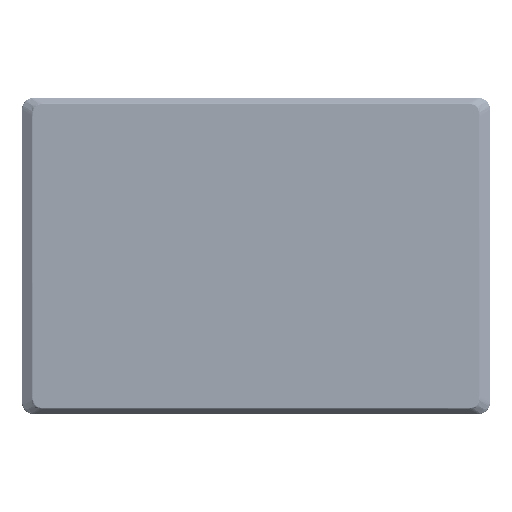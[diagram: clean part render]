
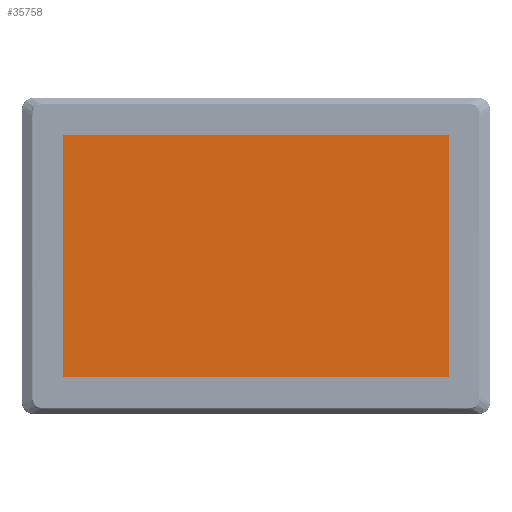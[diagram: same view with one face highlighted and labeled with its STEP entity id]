
A CAD part, top view. The second image highlights one B-rep face of the part: STEP entity #35758.
In plain terms, the highlighted planar face has unit normal (0, 0, 1).
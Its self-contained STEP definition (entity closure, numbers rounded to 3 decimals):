
#35373=DIRECTION('',(0.,1.,0.));
#35374=VECTOR('',#35373,164.4);
#35375=CARTESIAN_POINT('',(131.1,-82.2,-26.9));
#35376=LINE('',#35375,#35374);
#35377=DIRECTION('',(1.,0.,0.));
#35378=VECTOR('',#35377,262.2);
#35379=CARTESIAN_POINT('',(-131.1,-82.2,-26.9));
#35380=LINE('',#35379,#35378);
#35381=DIRECTION('',(0.,-1.,0.));
#35382=VECTOR('',#35381,164.4);
#35383=CARTESIAN_POINT('',(-131.1,82.2,-26.9));
#35384=LINE('',#35383,#35382);
#35385=DIRECTION('',(-1.,0.,0.));
#35386=VECTOR('',#35385,262.2);
#35387=CARTESIAN_POINT('',(131.1,82.2,-26.9));
#35388=LINE('',#35387,#35386);
#35489=CARTESIAN_POINT('',(131.1,82.2,-26.9));
#35490=VERTEX_POINT('',#35489);
#35491=CARTESIAN_POINT('',(131.1,-82.2,-26.9));
#35492=VERTEX_POINT('',#35491);
#35493=CARTESIAN_POINT('',(-131.1,-82.2,-26.9));
#35494=VERTEX_POINT('',#35493);
#35495=CARTESIAN_POINT('',(-131.1,82.2,-26.9));
#35496=VERTEX_POINT('',#35495);
#35747=CARTESIAN_POINT('',(0.,0.,-26.9));
#35748=DIRECTION('',(0.,0.,1.));
#35749=DIRECTION('',(-1.,0.,0.));
#35750=AXIS2_PLACEMENT_3D('',#35747,#35748,#35749);
#35751=PLANE('',#35750);
#35752=ORIENTED_EDGE('',*,*,#35699,.F.);
#35753=ORIENTED_EDGE('',*,*,#35714,.F.);
#35754=ORIENTED_EDGE('',*,*,#35728,.F.);
#35755=ORIENTED_EDGE('',*,*,#35741,.F.);
#35756=EDGE_LOOP('',(#35752,#35753,#35754,#35755));
#35757=FACE_OUTER_BOUND('',#35756,.F.);
#35758=ADVANCED_FACE('',(#35757),#35751,.T.);
#35699=EDGE_CURVE('',#35492,#35490,#35376,.T.);
#35714=EDGE_CURVE('',#35494,#35492,#35380,.T.);
#35728=EDGE_CURVE('',#35496,#35494,#35384,.T.);
#35741=EDGE_CURVE('',#35490,#35496,#35388,.T.);
